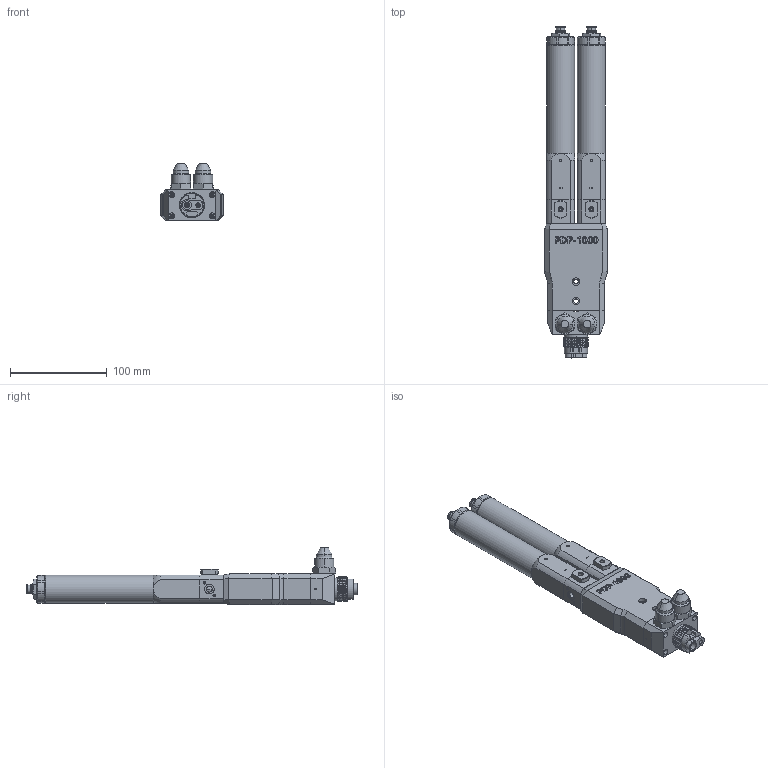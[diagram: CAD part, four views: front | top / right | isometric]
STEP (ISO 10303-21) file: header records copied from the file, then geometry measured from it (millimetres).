
FILE_DESCRIPTION (( 'STEP AP214' ), '1' );
FILE_NAME ('PDPM-1000FB.STEP', '2024-10-11T12:22:23', ( '' ), ( '' ), 'SwSTEP 2.0', 'SolidWorks 2024', '' );
FILE_SCHEMA (( 'AUTOMOTIVE_DESIGN' ));
Length unit declared in the file: millimetre
Products named in the file (1): PDPM-1000FB
Bounding box: 65 x 344 x 59.3 mm (x, y, z)
Volume: 510156 mm3; surface area: 122783 mm2
Topology: 12 solids, 12 shells, 1375 faces, 3428 edges, 2177 vertices
Faces by surface type: plane 527, cylinder 490, cone 269, bspline 69, torus 12, sphere 8
Full cylindrical faces by diameter (mm): 29 x2
Entity records: 60045 total; most frequent: CARTESIAN_POINT 27921, ORIENTED_EDGE 6780, DIRECTION 6508, EDGE_CURVE 3390, AXIS2_PLACEMENT_3D 2470, VERTEX_POINT 2177, VECTOR 1568, LINE 1568
